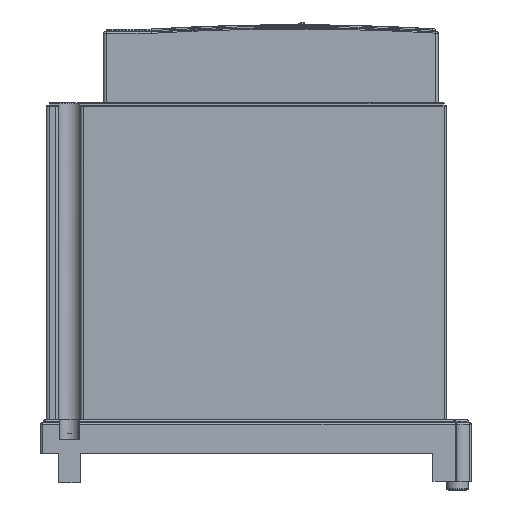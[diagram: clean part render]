
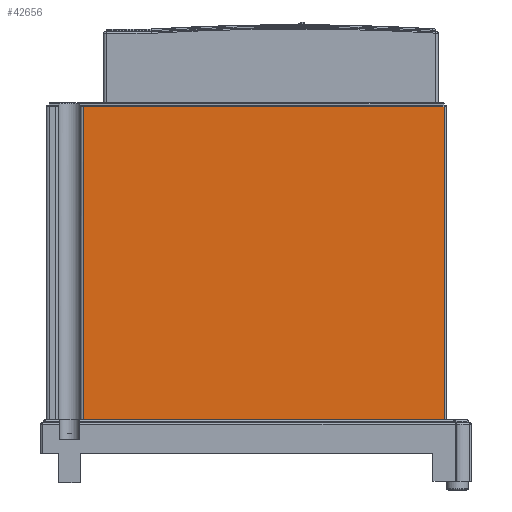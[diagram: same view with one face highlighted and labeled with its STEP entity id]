
A CAD part, front view. The second image highlights one B-rep face of the part: STEP entity #42656.
In plain terms, the highlighted planar face has unit normal (0, -1, 0) as drawn and (1, 0, 0) by its records, which use the part's own axes.
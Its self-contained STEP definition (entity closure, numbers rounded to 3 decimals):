
#26250=CARTESIAN_POINT('',(65.,-52.023,0.));
#27166=DIRECTION('',(0.,-1.,0.));
#27167=VECTOR('',#27166,126.023);
#27168=CARTESIAN_POINT('',(65.,74.,109.4));
#27169=LINE('',#27168,#27167);
#29729=DIRECTION('',(0.,0.,-1.));
#29730=VECTOR('',#29729,109.4);
#29731=CARTESIAN_POINT('',(65.,-52.023,109.4));
#29732=LINE('',#29731,#29730);
#29733=DIRECTION('',(0.,-1.,0.));
#29734=VECTOR('',#29733,126.023);
#29735=CARTESIAN_POINT('',(65.,74.,0.));
#29736=LINE('',#29735,#29734);
#29741=DIRECTION('',(0.,0.,1.));
#29742=VECTOR('',#29741,109.4);
#29743=CARTESIAN_POINT('',(65.,74.,0.));
#29744=LINE('',#29743,#29742);
#31091=VERTEX_POINT('',#26250);
#31092=CARTESIAN_POINT('',(65.,74.,0.));
#31093=VERTEX_POINT('',#31092);
#31342=CARTESIAN_POINT('',(65.,74.,109.4));
#31344=VERTEX_POINT('',#31342);
#31347=CARTESIAN_POINT('',(65.,-52.023,109.4));
#31349=VERTEX_POINT('',#31347);
#42644=CARTESIAN_POINT('',(65.,75.,132.));
#42645=DIRECTION('',(-1.,0.,0.));
#42646=DIRECTION('',(0.,-1.,0.));
#42647=AXIS2_PLACEMENT_3D('',#42644,#42645,#42646);
#42648=PLANE('',#42647);
#42650=ORIENTED_EDGE('',*,*,#42649,.F.);
#42651=ORIENTED_EDGE('',*,*,#36590,.T.);
#42652=ORIENTED_EDGE('',*,*,#42636,.F.);
#42653=ORIENTED_EDGE('',*,*,#38772,.F.);
#42654=EDGE_LOOP('',(#42650,#42651,#42652,#42653));
#42655=FACE_OUTER_BOUND('',#42654,.F.);
#42656=ADVANCED_FACE('',(#42655),#42648,.F.);
#36590=EDGE_CURVE('',#31093,#31091,#29736,.T.);
#38772=EDGE_CURVE('',#31344,#31349,#27169,.T.);
#42636=EDGE_CURVE('',#31349,#31091,#29732,.T.);
#42649=EDGE_CURVE('',#31093,#31344,#29744,.T.);
